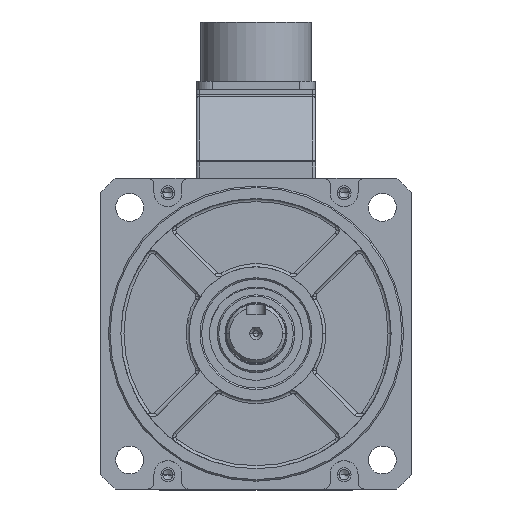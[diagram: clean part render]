
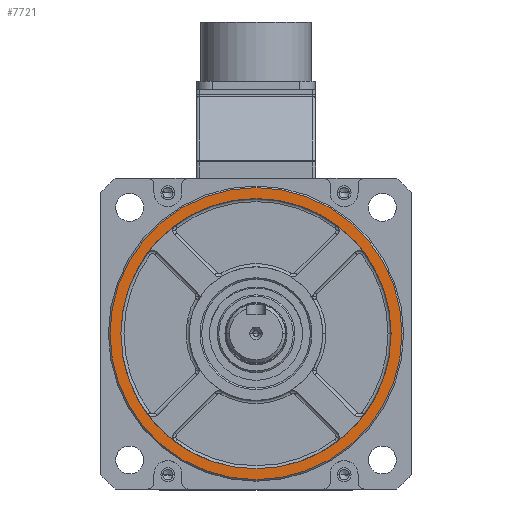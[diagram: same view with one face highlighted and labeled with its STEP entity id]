
A CAD part, top view. The second image highlights one B-rep face of the part: STEP entity #7721.
In plain terms, the highlighted planar face has unit normal (0, 0, 1).
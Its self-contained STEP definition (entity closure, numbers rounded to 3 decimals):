
#1696 = CIRCLE ( 'NONE', #50064, 47. ) ;
#5518 = ORIENTED_EDGE ( 'NONE', *, *, #38013, .T. ) ;
#6911 = CARTESIAN_POINT ( 'NONE',  ( 0., 0., 13. ) ) ;
#7593 = VERTEX_POINT ( 'NONE', #22027 ) ;
#7721 = ADVANCED_FACE ( 'NONE', ( #34793, #52890 ), #12221, .T. ) ;
#8227 = CIRCLE ( 'NONE', #54676, 43.5 ) ;
#9982 = CARTESIAN_POINT ( 'NONE',  ( 43.5, 0., 13. ) ) ;
#10974 = DIRECTION ( 'NONE',  ( 1., 0., 0. ) ) ;
#12221 = PLANE ( 'NONE',  #36751 ) ;
#14118 = VERTEX_POINT ( 'NONE', #16271 ) ;
#14416 = ORIENTED_EDGE ( 'NONE', *, *, #28506, .T. ) ;
#14625 = ORIENTED_EDGE ( 'NONE', *, *, #21355, .F. ) ;
#16158 = EDGE_CURVE ( 'NONE', #7593, #37923, #8227, .T. ) ;
#16271 = CARTESIAN_POINT ( 'NONE',  ( 47., 0., 13. ) ) ;
#16328 = CARTESIAN_POINT ( 'NONE',  ( 0., 0., 13. ) ) ;
#16842 = CIRCLE ( 'NONE', #53826, 43.5 ) ;
#17476 = EDGE_LOOP ( 'NONE', ( #14625, #18130 ) ) ;
#18130 = ORIENTED_EDGE ( 'NONE', *, *, #16158, .F. ) ;
#20299 = DIRECTION ( 'NONE',  ( 1., 0., 0. ) ) ;
#21045 = CIRCLE ( 'NONE', #36170, 47. ) ;
#21355 = EDGE_CURVE ( 'NONE', #37923, #7593, #16842, .T. ) ;
#22027 = CARTESIAN_POINT ( 'NONE',  ( -43.5, 0., 13. ) ) ;
#25353 = DIRECTION ( 'NONE',  ( 0., 0., 1. ) ) ;
#25907 = DIRECTION ( 'NONE',  ( 0., 0., 1. ) ) ;
#28506 = EDGE_CURVE ( 'NONE', #14118, #53930, #1696, .T. ) ;
#29206 = CARTESIAN_POINT ( 'NONE',  ( 0., 0., 13. ) ) ;
#34431 = DIRECTION ( 'NONE',  ( 0., 0., 1. ) ) ;
#34793 = FACE_OUTER_BOUND ( 'NONE', #39707, .T. ) ;
#36170 = AXIS2_PLACEMENT_3D ( 'NONE', #6911, #25353, #52614 ) ;
#36751 = AXIS2_PLACEMENT_3D ( 'NONE', #48438, #25907, #43972 ) ;
#37798 = DIRECTION ( 'NONE',  ( 0., 0., 1. ) ) ;
#37923 = VERTEX_POINT ( 'NONE', #9982 ) ;
#37986 = CARTESIAN_POINT ( 'NONE',  ( -47., 0., 13. ) ) ;
#38013 = EDGE_CURVE ( 'NONE', #53930, #14118, #21045, .T. ) ;
#39707 = EDGE_LOOP ( 'NONE', ( #5518, #14416 ) ) ;
#43972 = DIRECTION ( 'NONE',  ( 1., 0., 0. ) ) ;
#46208 = CARTESIAN_POINT ( 'NONE',  ( 0., 0., 13. ) ) ;
#48438 = CARTESIAN_POINT ( 'NONE',  ( 0., 0., 13. ) ) ;
#49292 = DIRECTION ( 'NONE',  ( 0., 0., 1. ) ) ;
#50064 = AXIS2_PLACEMENT_3D ( 'NONE', #16328, #34431, #10974 ) ;
#52614 = DIRECTION ( 'NONE',  ( 1., 0., 0. ) ) ;
#52890 = FACE_BOUND ( 'NONE', #17476, .T. ) ;
#53737 = DIRECTION ( 'NONE',  ( 1., 0., 0. ) ) ;
#53826 = AXIS2_PLACEMENT_3D ( 'NONE', #46208, #49292, #53737 ) ;
#53930 = VERTEX_POINT ( 'NONE', #37986 ) ;
#54676 = AXIS2_PLACEMENT_3D ( 'NONE', #29206, #37798, #20299 ) ;
